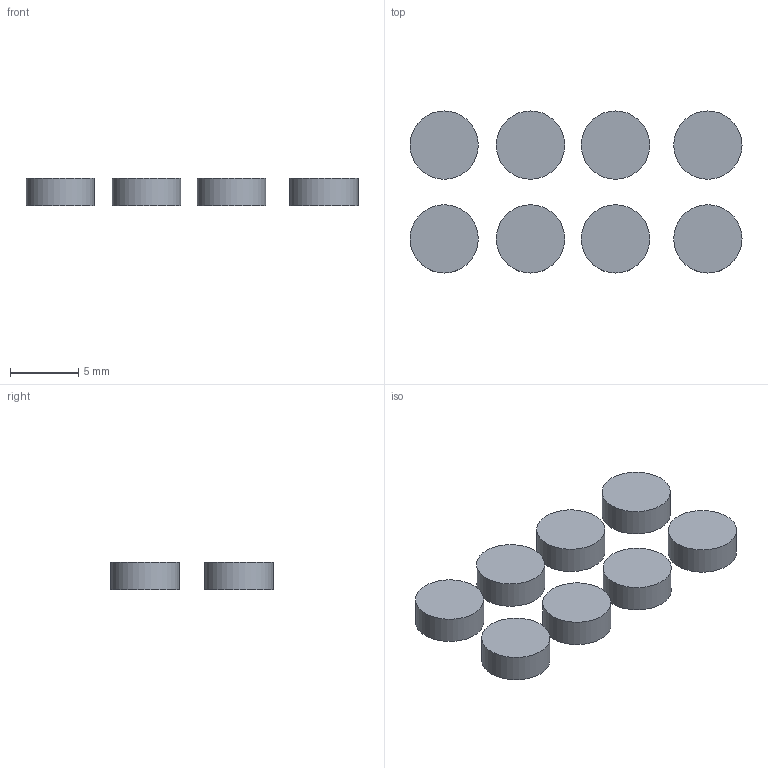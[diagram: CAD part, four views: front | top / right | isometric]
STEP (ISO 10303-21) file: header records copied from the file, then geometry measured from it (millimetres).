
FILE_DESCRIPTION(('STEP AP203'), '1');
FILE_NAME('êíîïêè äëÿ ëàäîâ', '', ('UNSPECIFIED'), ('UNSPECIFIED'), 'ASCON STEP Converter 1.3', 'ASCON Math Kernel', '');
FILE_SCHEMA(('CONFIG_CONTROL_DESIGN'));
Length unit declared in the file: millimetre
Bounding box: 24.31 x 11.87 x 2 mm (x, y, z)
Volume: 314.2 mm3; surface area: 565.5 mm2
Topology: 8 solids, 8 shells, 24 faces, 24 edges, 16 vertices
Faces by surface type: plane 16, cylinder 8
Full cylindrical faces by diameter (mm): 5 x8
Entity records: 682 total; most frequent: DIRECTION 82, CARTESIAN_POINT 57, AXIS2_PLACEMENT_3D 41, COLOUR_RGB 32, FILL_AREA_STYLE_COLOUR 32, FILL_AREA_STYLE 32, SURFACE_STYLE_FILL_AREA 32, SURFACE_SIDE_STYLE 32
